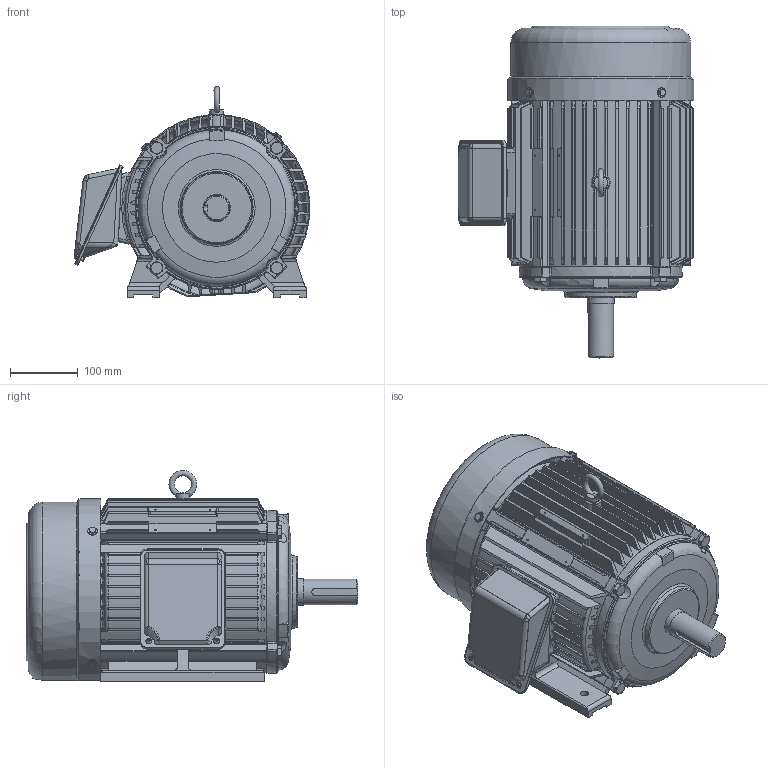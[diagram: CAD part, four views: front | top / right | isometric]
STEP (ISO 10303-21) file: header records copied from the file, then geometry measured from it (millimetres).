
FILE_DESCRIPTION(/* description */ ('Unknown'),/* implementation_level */ '2;1');
FILE_NAME(/* name */ '1-SMA-39273_외형도(228DIA)',/* time_stamp */ '2026-07-24T08:27:49+09:00',/* author */ ('Unknown'),/* organization */ ('Unknown'),/* preprocessor_version */ 'ST-DEVELOPER v16',/* originating_system */ 'DEX',/* authorisation */ $);
FILE_SCHEMA (('AUTOMOTIVE_DESIGN {1 0 10303 214 3 1 1}'));
Length unit declared in the file: millimetre
Products named in the file (15): 1-SMA-39273_寇屈档(228DI; 2-SMA-39267_FRAME(228DIA); 3-SMA-39268_擅粽塭鰍(228D; 4-SMA-39269_菴粽塭鰍(228D; 5-SMA-39271_SHAFT(228DIA); 6-SMA-31243_FAN(194DIA); 7-SMA-30111_FAN COVER(228DIA); 8-SMA-33050_T-BOX(鼻)(205~260DIA); 9-SMA-33051_T-BOX(ж)(205~260DIA); I獐お M10x1.5x18; 菅斬 褊濠 M5x0.8x; 幫陝獐お M10x1.5x; 幫陝Ы楠雖 M6x1; 6306ZZ; 6308ZZ
Assembly tree (25 placements, depth 2):
  1-SMA-39273_寇屈档(228DI
    2-SMA-39267_FRAME(228DIA)
    3-SMA-39268_擅粽塭鰍(228D
    4-SMA-39269_菴粽塭鰍(228D
    5-SMA-39271_SHAFT(228DIA)
    6-SMA-31243_FAN(194DIA)
    7-SMA-30111_FAN COVER(228DIA)
    8-SMA-33050_T-BOX(鼻)(205~260DIA)
    9-SMA-33051_T-BOX(ж)(205~260DIA)
    I獐お M10x1.5x18
    菅斬 褊濠 M5x0.8x  x2
    幫陝獐お M10x1.5x  x8
    幫陝Ы楠雖 M6x1  x4
    6306ZZ
    6308ZZ
Bounding box: 347.52 x 488.99 x 311 mm (x, y, z)
Volume: 4572934.6 mm3; surface area: 1632303.3 mm2
Topology: 47 solids, 47 shells, 2043 faces, 5320 edges, 3384 vertices
Faces by surface type: plane 640, cylinder 595, cone 392, torus 201, bspline 179, sphere 36
Full cylindrical faces by diameter (mm): 2.2 x4, 4.134 x2, 4.917 x6, 5 x2, 6 x10, 7 x2, 8.376 x18, 10 x18, 12 x12, 14 x4, 20 x1, 22 x1, 28 x1, 29.8 x1, 30 x2, 30.6 x1, 35 x1, 38 x1, 39.8 x1, 40 x5, 40.6 x1, 42 x2, 42.4 x2, 43.1 x1, 45 x1, 54.286 x2, 54.686 x2, 59.6 x2, 60 x2, 72 x2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
Entity records: 83451 total; most frequent: CARTESIAN_POINT 35559, ORIENTED_EDGE 9068, DIRECTION 8364, EDGE_CURVE 4534, AXIS2_PLACEMENT_3D 3501, VERTEX_POINT 3012, FACE_BOUND 2216, EDGE_LOOP 2187
